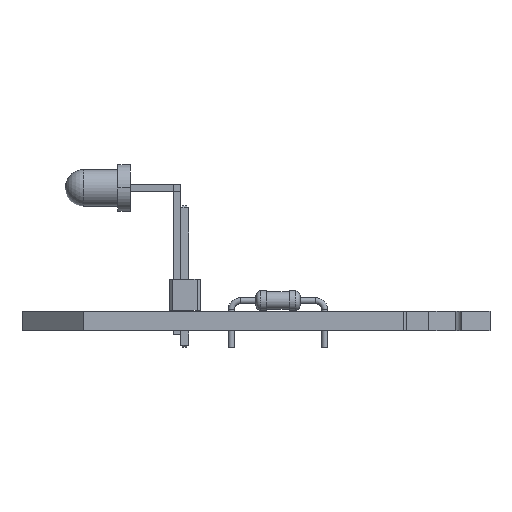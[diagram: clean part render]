
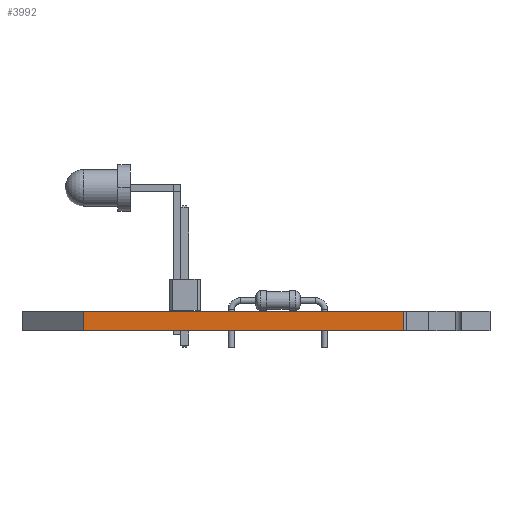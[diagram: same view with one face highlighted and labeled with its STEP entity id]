
A CAD part, front view. The second image highlights one B-rep face of the part: STEP entity #3992.
In plain terms, the highlighted planar face has unit normal (0, -1, 0).
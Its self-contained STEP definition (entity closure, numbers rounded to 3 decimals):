
#3095 = VERTEX_POINT('',#3096);
#3096 = CARTESIAN_POINT('',(29.287,-12.02,0.));
#3103 = EDGE_CURVE('',#3095,#3104,#3106,.T.);
#3104 = VERTEX_POINT('',#3105);
#3105 = CARTESIAN_POINT('',(3.155,-12.02,0.));
#3106 = LINE('',#3107,#3108);
#3107 = CARTESIAN_POINT('',(31.355,-12.02,0.));
#3108 = VECTOR('',#3109,1.);
#3109 = DIRECTION('',(-1.,0.,0.));
#3504 = VERTEX_POINT('',#3505);
#3505 = CARTESIAN_POINT('',(29.287,-12.02,1.6));
#3512 = EDGE_CURVE('',#3504,#3513,#3515,.T.);
#3513 = VERTEX_POINT('',#3514);
#3514 = CARTESIAN_POINT('',(3.155,-12.02,1.6));
#3515 = LINE('',#3516,#3517);
#3516 = CARTESIAN_POINT('',(31.355,-12.02,1.6));
#3517 = VECTOR('',#3518,1.);
#3518 = DIRECTION('',(-1.,0.,0.));
#3979 = EDGE_CURVE('',#3104,#3513,#3980,.T.);
#3980 = LINE('',#3981,#3982);
#3981 = CARTESIAN_POINT('',(3.155,-12.02,0.));
#3982 = VECTOR('',#3983,1.);
#3983 = DIRECTION('',(0.,0.,1.));
#3992 = ADVANCED_FACE('',(#3993),#4004,.T.);
#3993 = FACE_BOUND('',#3994,.T.);
#3994 = EDGE_LOOP('',(#3995,#3996,#4002,#4003));
#3995 = ORIENTED_EDGE('',*,*,#3103,.F.);
#3996 = ORIENTED_EDGE('',*,*,#3997,.F.);
#3997 = EDGE_CURVE('',#3504,#3095,#3998,.T.);
#3998 = LINE('',#3999,#4000);
#3999 = CARTESIAN_POINT('',(29.287,-12.02,-0.045));
#4000 = VECTOR('',#4001,1.);
#4001 = DIRECTION('',(-0.,-0.,-1.));
#4002 = ORIENTED_EDGE('',*,*,#3512,.T.);
#4003 = ORIENTED_EDGE('',*,*,#3979,.F.);
#4004 = PLANE('',#4005);
#4005 = AXIS2_PLACEMENT_3D('',#4006,#4007,#4008);
#4006 = CARTESIAN_POINT('',(31.355,-12.02,0.));
#4007 = DIRECTION('',(0.,-1.,0.));
#4008 = DIRECTION('',(-1.,0.,0.));
